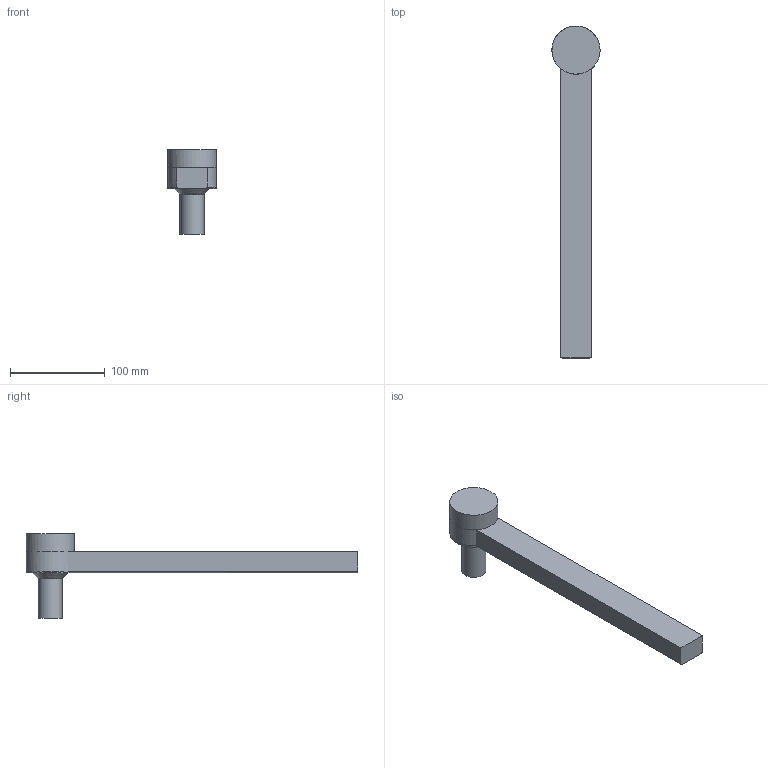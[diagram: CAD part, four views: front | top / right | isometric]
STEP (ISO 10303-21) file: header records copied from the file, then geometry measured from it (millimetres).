
FILE_DESCRIPTION(/* description */ (''),/* implementation_level */ '2;1');
FILE_NAME(/* name */ 'B02111TRUPas.stp',/* time_stamp */ '2019-10-02T10:51:53-04:00',/* author */ (''),/* organization */ (''),/* preprocessor_version */ 'ST-DEVELOPER v16',/* originating_system */ 'SIEMENS PLM Software NX 11.0',/* authorisation */ '');
FILE_SCHEMA (('AUTOMOTIVE_DESIGN { 1 0 10303 214 3 1 1 1 }'));
Length unit declared in the file: inch
Products named in the file (3): B02XX_SubSolid; B02111TRUPd; B02111TRUPas
Assembly tree (2 placements, depth 2):
  B02111TRUPas
    B02111TRUPd
    B02XX_SubSolid
Bounding box: 50.91 x 350.87 x 89.69 mm (x, y, z)
Volume: 382999.5 mm3; surface area: 60498.4 mm2
Topology: 2 solids, 3 shells, 32 faces, 68 edges, 43 vertices
Faces by surface type: plane 13, cylinder 9, cone 5, torus 3, sphere 1, revolution 1
Full cylindrical faces by diameter (mm): 8.731 x2, 25.4 x2, 50.927 x1
Entity records: 834 total; most frequent: CARTESIAN_POINT 161, DIRECTION 134, ORIENTED_EDGE 92, AXIS2_PLACEMENT_3D 58, EDGE_LOOP 50, EDGE_CURVE 46, FACE_BOUND 41, VERTEX_POINT 38
